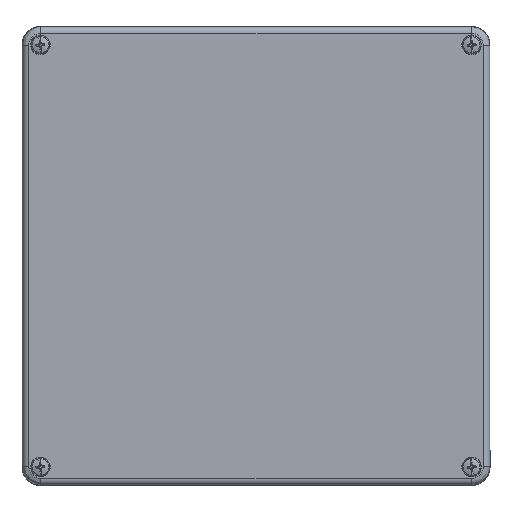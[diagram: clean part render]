
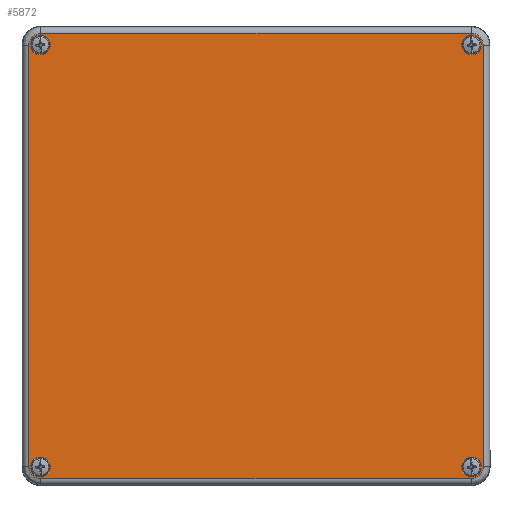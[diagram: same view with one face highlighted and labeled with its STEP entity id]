
A CAD part, top view. The second image highlights one B-rep face of the part: STEP entity #5872.
In plain terms, the highlighted planar face has unit normal (0, 0, 1).
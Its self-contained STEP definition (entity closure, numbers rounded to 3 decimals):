
#85=ELLIPSE('',#6453,6.5,6.5);
#87=ELLIPSE('',#6458,6.5,6.5);
#89=ELLIPSE('',#6464,6.5,6.5);
#91=ELLIPSE('',#6469,6.5,6.5);
#181=FACE_BOUND('',#2184,.T.);
#182=FACE_BOUND('',#2185,.T.);
#183=FACE_BOUND('',#2186,.T.);
#184=FACE_BOUND('',#2187,.T.);
#393=PLANE('',#6477);
#867=LINE('',#9979,#1321);
#873=LINE('',#10074,#1327);
#875=LINE('',#10077,#1329);
#877=LINE('',#10080,#1331);
#1321=VECTOR('',#8007,229.621);
#1327=VECTOR('',#8035,234.621);
#1329=VECTOR('',#8039,229.621);
#1331=VECTOR('',#8043,234.621);
#1752=FACE_OUTER_BOUND('',#2183,.T.);
#2183=EDGE_LOOP('',(#5221,#5222,#5223,#5224,#5225,#5226,#5227,#5228));
#2184=EDGE_LOOP('',(#5229));
#2185=EDGE_LOOP('',(#5230));
#2186=EDGE_LOOP('',(#5231));
#2187=EDGE_LOOP('',(#5232));
#2486=CIRCLE('',#6336,5.4);
#2489=CIRCLE('',#6342,5.4);
#2492=CIRCLE('',#6348,5.4);
#2495=CIRCLE('',#6354,5.4);
#2943=VERTEX_POINT('',#9597);
#2946=VERTEX_POINT('',#9606);
#2949=VERTEX_POINT('',#9615);
#2952=VERTEX_POINT('',#9624);
#3042=VERTEX_POINT('',#9921);
#3044=VERTEX_POINT('',#9925);
#3046=VERTEX_POINT('',#9967);
#3048=VERTEX_POINT('',#9971);
#3050=VERTEX_POINT('',#10016);
#3052=VERTEX_POINT('',#10020);
#3054=VERTEX_POINT('',#10062);
#3056=VERTEX_POINT('',#10066);
#3642=EDGE_CURVE('',#2943,#2943,#2486,.T.);
#3645=EDGE_CURVE('',#2946,#2946,#2489,.T.);
#3648=EDGE_CURVE('',#2949,#2949,#2492,.T.);
#3651=EDGE_CURVE('',#2952,#2952,#2495,.T.);
#3783=EDGE_CURVE('',#3044,#3042,#85,.T.);
#3789=EDGE_CURVE('',#3048,#3046,#87,.T.);
#3793=EDGE_CURVE('',#3042,#3048,#867,.T.);
#3797=EDGE_CURVE('',#3052,#3050,#89,.T.);
#3803=EDGE_CURVE('',#3056,#3054,#91,.T.);
#3807=EDGE_CURVE('',#3046,#3056,#873,.T.);
#3809=EDGE_CURVE('',#3054,#3052,#875,.T.);
#3811=EDGE_CURVE('',#3050,#3044,#877,.T.);
#5221=ORIENTED_EDGE('',*,*,#3803,.F.);
#5222=ORIENTED_EDGE('',*,*,#3807,.F.);
#5223=ORIENTED_EDGE('',*,*,#3789,.F.);
#5224=ORIENTED_EDGE('',*,*,#3793,.F.);
#5225=ORIENTED_EDGE('',*,*,#3783,.F.);
#5226=ORIENTED_EDGE('',*,*,#3811,.F.);
#5227=ORIENTED_EDGE('',*,*,#3797,.F.);
#5228=ORIENTED_EDGE('',*,*,#3809,.F.);
#5229=ORIENTED_EDGE('',*,*,#3642,.T.);
#5230=ORIENTED_EDGE('',*,*,#3645,.T.);
#5231=ORIENTED_EDGE('',*,*,#3648,.T.);
#5232=ORIENTED_EDGE('',*,*,#3651,.T.);
#5872=ADVANCED_FACE('',(#1752,#181,#182,#183,#184),#393,.T.);
#6336=AXIS2_PLACEMENT_3D('',#9598,#7676,#7677);
#6342=AXIS2_PLACEMENT_3D('',#9607,#7688,#7689);
#6348=AXIS2_PLACEMENT_3D('',#9616,#7700,#7701);
#6354=AXIS2_PLACEMENT_3D('',#9625,#7712,#7713);
#6453=AXIS2_PLACEMENT_3D('',#9927,#7986,#7987);
#6458=AXIS2_PLACEMENT_3D('',#9973,#7998,#7999);
#6464=AXIS2_PLACEMENT_3D('',#10022,#8014,#8015);
#6469=AXIS2_PLACEMENT_3D('',#10068,#8026,#8027);
#6477=AXIS2_PLACEMENT_3D('',#10084,#8050,#8051);
#7676=DIRECTION('center_axis',(0.,0.,-1.));
#7677=DIRECTION('ref_axis',(1.,0.,0.));
#7688=DIRECTION('center_axis',(0.,0.,-1.));
#7689=DIRECTION('ref_axis',(1.,0.,0.));
#7700=DIRECTION('center_axis',(0.,0.,-1.));
#7701=DIRECTION('ref_axis',(1.,0.,0.));
#7712=DIRECTION('center_axis',(0.,0.,-1.));
#7713=DIRECTION('ref_axis',(1.,0.,0.));
#7986=DIRECTION('center_axis',(0.,0.,-1.));
#7987=DIRECTION('ref_axis',(-0.707,-0.707,0.));
#7998=DIRECTION('center_axis',(0.,0.,-1.));
#7999=DIRECTION('ref_axis',(-0.707,0.707,0.));
#8007=DIRECTION('',(0.,1.,0.));
#8014=DIRECTION('center_axis',(0.,0.,-1.));
#8015=DIRECTION('ref_axis',(0.707,-0.707,0.));
#8026=DIRECTION('center_axis',(0.,0.,-1.));
#8027=DIRECTION('ref_axis',(0.707,0.707,0.));
#8035=DIRECTION('',(1.,0.,0.));
#8039=DIRECTION('',(0.,-1.,0.));
#8043=DIRECTION('',(-1.,0.,0.));
#8050=DIRECTION('center_axis',(0.,0.,1.));
#8051=DIRECTION('ref_axis',(1.,0.,0.));
#9597=CARTESIAN_POINT('',(-112.1,-115.,25.25));
#9598=CARTESIAN_POINT('Origin',(-117.5,-115.,25.25));
#9606=CARTESIAN_POINT('',(122.9,-115.,25.25));
#9607=CARTESIAN_POINT('Origin',(117.5,-115.,25.25));
#9615=CARTESIAN_POINT('',(122.9,115.,25.25));
#9616=CARTESIAN_POINT('Origin',(117.5,115.,25.25));
#9624=CARTESIAN_POINT('',(-112.1,115.,25.25));
#9625=CARTESIAN_POINT('Origin',(-117.5,115.,25.25));
#9921=CARTESIAN_POINT('',(-123.81,-114.81,25.25));
#9925=CARTESIAN_POINT('',(-117.31,-121.31,25.25));
#9927=CARTESIAN_POINT('Origin',(-117.31,-114.81,25.25));
#9967=CARTESIAN_POINT('',(-117.31,121.31,25.25));
#9971=CARTESIAN_POINT('',(-123.81,114.81,25.25));
#9973=CARTESIAN_POINT('Origin',(-117.31,114.81,25.25));
#9979=CARTESIAN_POINT('',(-123.81,-62.5,25.25));
#10016=CARTESIAN_POINT('',(117.31,-121.31,25.25));
#10020=CARTESIAN_POINT('',(123.81,-114.81,25.25));
#10022=CARTESIAN_POINT('Origin',(117.31,-114.81,25.25));
#10062=CARTESIAN_POINT('',(123.81,114.81,25.25));
#10066=CARTESIAN_POINT('',(117.31,121.31,25.25));
#10068=CARTESIAN_POINT('Origin',(117.31,114.81,25.25));
#10074=CARTESIAN_POINT('',(-63.75,121.31,25.25));
#10077=CARTESIAN_POINT('',(123.81,62.5,25.25));
#10080=CARTESIAN_POINT('',(63.75,-121.31,25.25));
#10084=CARTESIAN_POINT('Origin',(0.,0.,
25.25));
